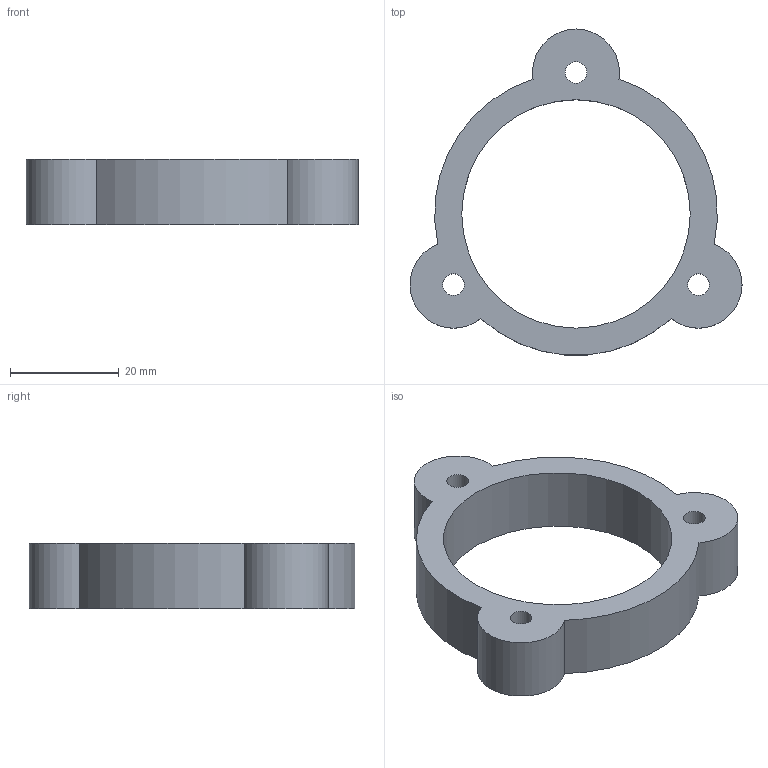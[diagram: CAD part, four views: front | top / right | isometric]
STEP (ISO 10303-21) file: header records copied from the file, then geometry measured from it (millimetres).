
FILE_DESCRIPTION( ( 'Unknown' ), '1' );
FILE_NAME( 'F:/navkite transat/construction/2016/3D ET ASSEMBLAGES/AMI/AMI 09.stp', 'Unknown', ( 'GMA' ), ( 'Unknown' ), 'XStep 1.0', 'Unknown', ' ' );
FILE_SCHEMA( ( 'automotive_design' ) );
Length unit declared in the file: millimetre
Products named in the file (1): 1
Bounding box: 61.03 x 59.91 x 12 mm (x, y, z)
Volume: 12262.9 mm3; surface area: 6455.4 mm2
Topology: 1 solids, 1 shells, 12 faces, 33 edges, 23 vertices
Faces by surface type: cylinder 10, plane 2
Full cylindrical faces by diameter (mm): 4 x3, 42 x1
Entity records: 482 total; most frequent: DIRECTION 72, CARTESIAN_POINT 59, ORIENTED_EDGE 52, AXIS2_PLACEMENT_3D 33, EDGE_CURVE 26, EDGE_LOOP 24, VERTEX_POINT 20, CIRCLE 20
